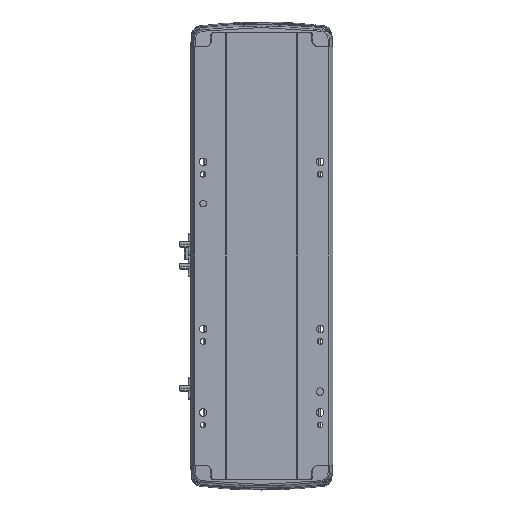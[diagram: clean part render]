
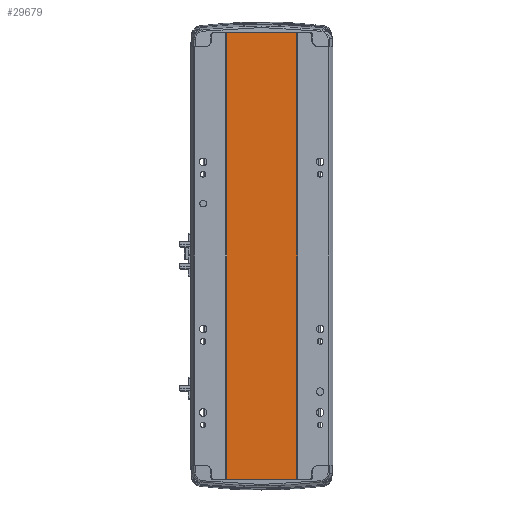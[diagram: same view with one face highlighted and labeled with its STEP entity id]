
A CAD part, front view. The second image highlights one B-rep face of the part: STEP entity #29679.
In plain terms, the highlighted planar face has unit normal (0, -1, 0).
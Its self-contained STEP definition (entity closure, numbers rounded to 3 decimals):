
#15 = CARTESIAN_POINT ( 'NONE',  ( 0., 0.999, 534.5 ) ) ;
#407 = PLANE ( 'NONE',  #3486 ) ;
#707 = CARTESIAN_POINT ( 'NONE',  ( 0., 0.999, 0. ) ) ;
#1690 = CARTESIAN_POINT ( 'NONE',  ( 41.793, 0.998, 534.5 ) ) ;
#3347 = CARTESIAN_POINT ( 'NONE',  ( 0., 0.999, 534.5 ) ) ;
#3486 = AXIS2_PLACEMENT_3D ( 'NONE', #15, #24309, #6229 ) ;
#6229 = DIRECTION ( 'NONE',  ( -1., 0., 0. ) ) ;
#6908 = VERTEX_POINT ( 'NONE', #37494 ) ;
#7314 = VECTOR ( 'NONE', #10570, 1000. ) ;
#7402 = ORIENTED_EDGE ( 'NONE', *, *, #30423, .T. ) ;
#8288 = FACE_OUTER_BOUND ( 'NONE', #25376, .T. ) ;
#10570 = DIRECTION ( 'NONE',  ( 0., 0., -1. ) ) ;
#10774 = VERTEX_POINT ( 'NONE', #27275 ) ;
#11500 = VECTOR ( 'NONE', #30712, 1000. ) ;
#13495 = VECTOR ( 'NONE', #27671, 1000. ) ;
#14777 = CARTESIAN_POINT ( 'NONE',  ( -41.791, 1., 534.5 ) ) ;
#17003 = ORIENTED_EDGE ( 'NONE', *, *, #20605, .F. ) ;
#17691 = CARTESIAN_POINT ( 'NONE',  ( 41.793, 0.998, 534.5 ) ) ;
#18639 = LINE ( 'NONE', #707, #13495 ) ;
#18926 = ORIENTED_EDGE ( 'NONE', *, *, #24764, .T. ) ;
#19355 = VERTEX_POINT ( 'NONE', #17691 ) ;
#20605 = EDGE_CURVE ( 'NONE', #19355, #10774, #31415, .T. ) ;
#21757 = CARTESIAN_POINT ( 'NONE',  ( -41.791, 1., 534.5 ) ) ;
#24309 = DIRECTION ( 'NONE',  ( 0., 1., 0. ) ) ;
#24764 = EDGE_CURVE ( 'NONE', #36427, #6908, #26454, .T. ) ;
#25166 = LINE ( 'NONE', #3347, #11500 ) ;
#25376 = EDGE_LOOP ( 'NONE', ( #7402, #17003, #36165, #18926 ) ) ;
#26454 = LINE ( 'NONE', #21757, #36824 ) ;
#27275 = CARTESIAN_POINT ( 'NONE',  ( 41.793, 0.998, 0. ) ) ;
#27671 = DIRECTION ( 'NONE',  ( 1., 0., 0. ) ) ;
#28629 = DIRECTION ( 'NONE',  ( 0., 0., -1. ) ) ;
#29679 = ADVANCED_FACE ( 'NONE', ( #8288 ), #407, .F. ) ;
#30423 = EDGE_CURVE ( 'NONE', #6908, #10774, #18639, .T. ) ;
#30712 = DIRECTION ( 'NONE',  ( 1., 0., 0. ) ) ;
#31415 = LINE ( 'NONE', #1690, #7314 ) ;
#35850 = EDGE_CURVE ( 'NONE', #36427, #19355, #25166, .T. ) ;
#36165 = ORIENTED_EDGE ( 'NONE', *, *, #35850, .F. ) ;
#36427 = VERTEX_POINT ( 'NONE', #14777 ) ;
#36824 = VECTOR ( 'NONE', #28629, 1000. ) ;
#37494 = CARTESIAN_POINT ( 'NONE',  ( -41.791, 1., 0. ) ) ;
